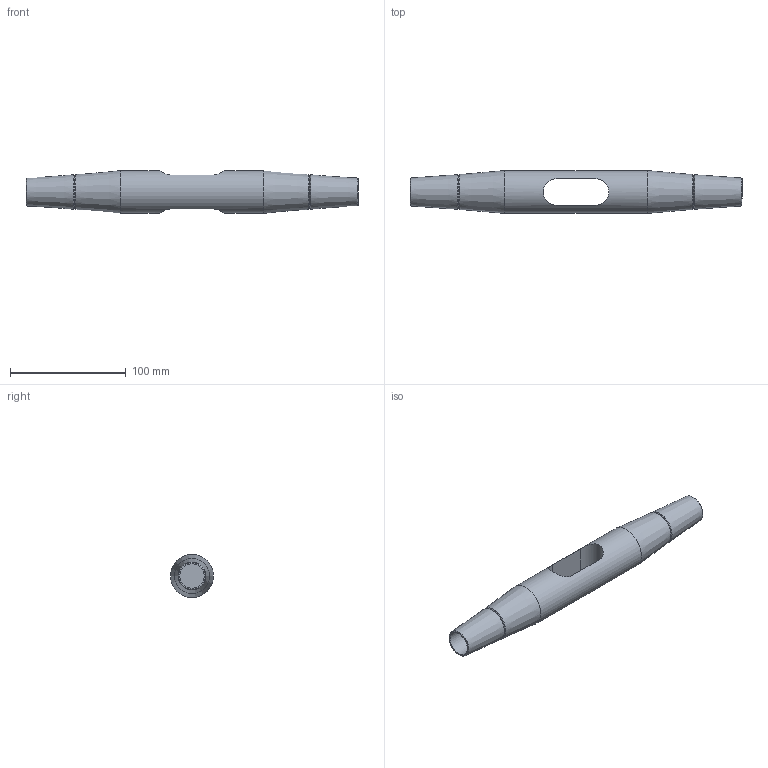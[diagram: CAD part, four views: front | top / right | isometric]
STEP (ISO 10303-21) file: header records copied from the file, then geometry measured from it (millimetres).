
FILE_DESCRIPTION(/* description */ (''),/* implementation_level */ '2;1');
FILE_NAME(/* name */ 'G:\Engineering\700 CAD\Internet-PX-1-step-igs-dxf\520-KMF-Arbeitsdateien\520-020-KMF.stp',/* time_stamp */ '2020-07-02T13:19:33+02:00',/* author */ ('schwarz'),/* organization */ (''),/* preprocessor_version */ 'ST-DEVELOPER v16.1',/* originating_system */ 'Autodesk Inventor 2016',/* authorisation */ '');
FILE_SCHEMA (('AUTOMOTIVE_DESIGN { 1 0 10303 214 3 1 1 }'));
Length unit declared in the file: centimetre
Products named in the file (1): Kreuzmuffen-Set 520 020 Kunde
Bounding box: 287 x 37 x 37 mm (x, y, z)
Volume: 187694.9 mm3; surface area: 36992.6 mm2
Topology: 1 solids, 1 shells, 23 faces, 43 edges, 26 vertices
Faces by surface type: cone 10, plane 8, cylinder 5
Full cylindrical faces by diameter (mm): 21 x2, 37 x1
Entity records: 663 total; most frequent: CARTESIAN_POINT 180, DIRECTION 92, ORIENTED_EDGE 60, EDGE_LOOP 42, AXIS2_PLACEMENT_3D 42, EDGE_CURVE 30, VERTEX_POINT 26, STYLED_ITEM 24
